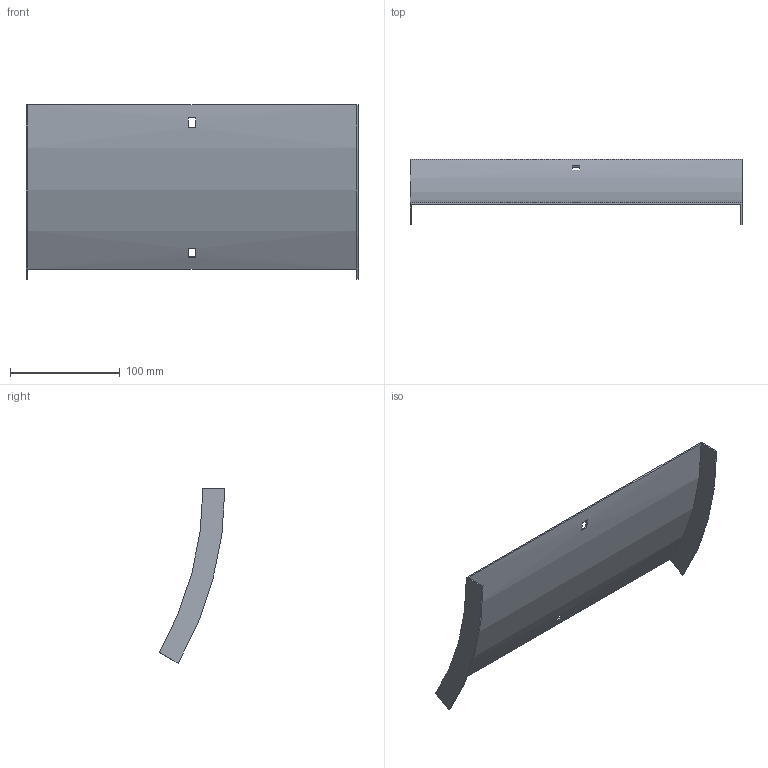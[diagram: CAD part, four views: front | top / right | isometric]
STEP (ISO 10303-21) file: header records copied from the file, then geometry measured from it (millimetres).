
FILE_DESCRIPTION (( 'STEP AP214' ), '1' );
FILE_NAME ('B2X32N3R300X.step', '2025-03-20T09:39:57', ( '' ), ( '' ), 'SwSTEP 2.0', 'SolidWorks 2023', '' );
FILE_SCHEMA (( 'AUTOMOTIVE_DESIGN' ));
Length unit declared in the file: millimetre
Products named in the file (1): B2X32N3R300X
Bounding box: 303 x 59.99 x 159.25 mm (x, y, z)
Volume: 80025.2 mm3; surface area: 108312.5 mm2
Topology: 1 solids, 1 shells, 18 faces, 48 edges, 32 vertices
Faces by surface type: plane 14, cylinder 4
Entity records: 599 total; most frequent: DIRECTION 102, CARTESIAN_POINT 99, ORIENTED_EDGE 96, EDGE_CURVE 48, AXIS2_PLACEMENT_3D 35, LINE 32, VERTEX_POINT 32, VECTOR 32
